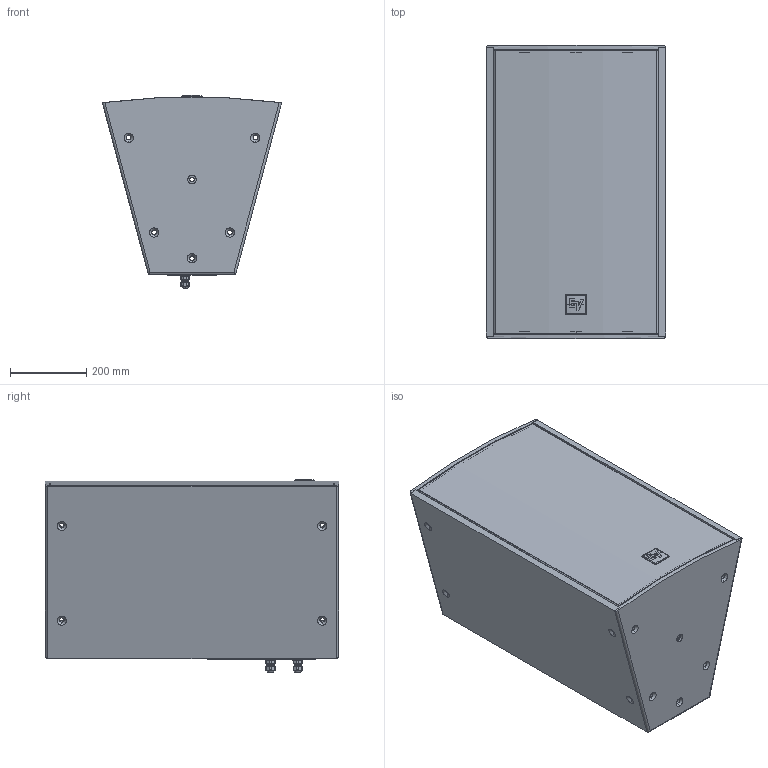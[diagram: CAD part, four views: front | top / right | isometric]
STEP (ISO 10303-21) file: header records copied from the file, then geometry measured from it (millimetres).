
FILE_DESCRIPTION (( 'STEP AP214' ), '1' );
FILE_NAME ('EVF-1152 3D CAD.STEP', '2021-07-23T16:06:06', ( '' ), ( '' ), 'SwSTEP 2.0', 'SolidWorks 2019', '' );
FILE_SCHEMA (( 'AUTOMOTIVE_DESIGN' ));
Length unit declared in the file: inch
Products named in the file (10): EVF-1152 Enclosure Assembly; EVF-1152 Gland Nut Panel; EVF-1152 Side Panel; EVF-1152 Rear Panel; EVF-1152 EV Logo; EVF-1152 3D CAD; EVF-1152 Top And Bottom Panel; EVF-1152 Gland Nut; EVF-1152 Grille
Assembly tree (11 placements, depth 3):
  EVF-1152 3D CAD
    EVF-1152 Enclosure Assembly
      EVF-1152 Top And Bottom Panel
      EVF-1152 Top And Bottom Panel
      EVF-1152 Rear Panel
      EVF-1152 Side Panel  x2
    EVF-1152 Grille
    EVF-1152 EV Logo
    EVF-1152 Gland Nut Panel
    EVF-1152 Gland Nut  x2
Bounding box: 469.9 x 768.55 x 506.16 mm (x, y, z)
Volume: 20997590.4 mm3; surface area: 3306998.9 mm2
Topology: 14 solids, 14 shells, 610 faces, 1563 edges, 985 vertices
Faces by surface type: cylinder 182, plane 159, bspline 145, cone 90, torus 34
Entity records: 29381 total; most frequent: CARTESIAN_POINT 18794, ORIENTED_EDGE 2348, DIRECTION 1766, EDGE_CURVE 1174, VERTEX_POINT 738, AXIS2_PLACEMENT_3D 673, EDGE_LOOP 530, ADVANCED_FACE 461
